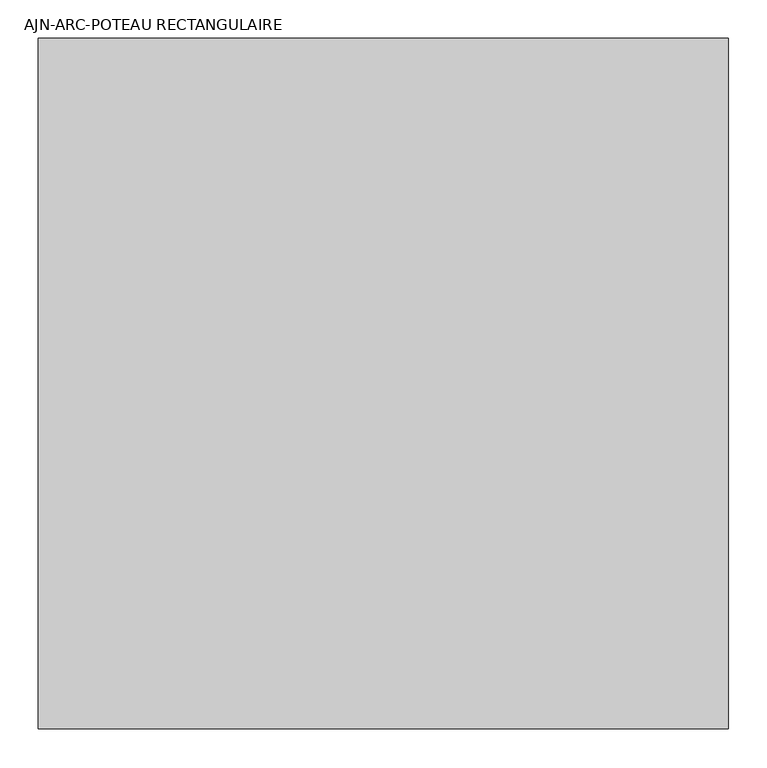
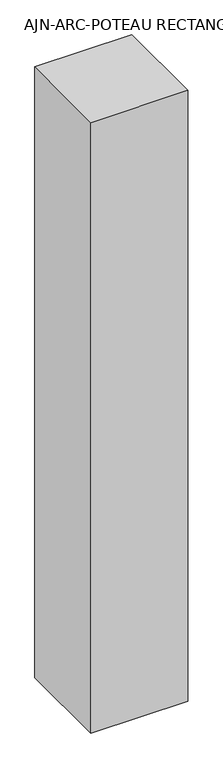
"""IFC4 building model written with IfcOpenShell, lengths in millimetres: column geometry, AJN-ARC-POTEAU RECTANGULAIRE : 900 mm x 900 mm."""

from ifc_helpers import new_model, si_unit, frame, origin, place, context, project, spatial, polyline, outline, extrude, source, transform, mapped, element, save


def ajn_arc_poteau_rectangulaire_79770069(model_context):
    return source(origin(), model_context, "Body", "SweptSolid", [
        extrude(outline(polyline([(450.0, 450.0), (450.0, -450.0), (-450.0, -450.0), (-450.0, 450.0), (450.0, 450.0)])), frame((0.0, 0.0, -3.14e-05), z_axis=(0.0, 0.0, 1.0), x_axis=(1.0, 0.0, 0.0)), (0.0, 0.0, 1.0), 6000.0),
    ])


if __name__ == "__main__":
    model = new_model("IFC4")
    model_context = context("Model", 3, world=origin())
    ifc_project = project(units=[si_unit("LENGTHUNIT", "METRE", prefix="MILLI")], contexts=[model_context])
    site = spatial("IfcSite", under=ifc_project)
    building = spatial("IfcBuilding", under=site)
    placement = place(None, origin())
    ajn_arc_poteau_rectangulaire_shape = ajn_arc_poteau_rectangulaire_79770069(model_context)
    element("IfcColumn", 1, ObjectType="AJN-ARC-POTEAU RECTANGULAIRE : 900 mm x 900 mm", at=placement, inside=building, context=model_context, shape_type="MappedRepresentation", body=[
        mapped(ajn_arc_poteau_rectangulaire_shape, transform((0.0, 0.0, 0.0), x_axis=(1.0, 0.0, 0.0), y_axis=(0.0, 1.0, 0.0), z_axis=(0.0, 0.0, 1.0))),
    ])
    save(model, "model.ifc")
